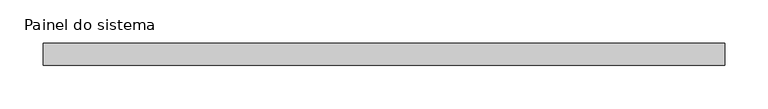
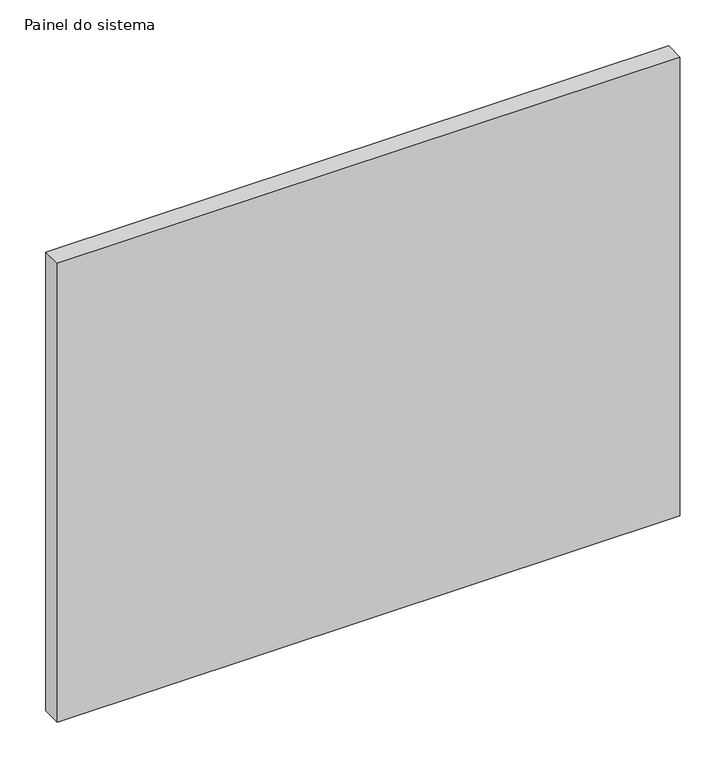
"""IFC4 building model written with IfcOpenShell, lengths in millimetres: plate geometry, Painel do sistema : Envidraçado."""

from ifc_helpers import new_model, si_unit, origin, origin_with_axes, place, context, project, spatial, polyline, outline, extrude, source, transform, mapped, element, save


def painel_do_sistema_9d6ee0b2(model_context):
    return source(origin(), model_context, "Body", "SweptSolid", [
        extrude(outline(polyline([(391.65, 24.5), (-391.65, 24.5), (-391.65, 49.5), (391.65, 49.5), (391.65, 24.5)])), origin_with_axes(), (0.0, 0.0, 1.0), 610.0),
    ])


if __name__ == "__main__":
    model = new_model("IFC4")
    model_context = context("Model", 3, world=origin())
    ifc_project = project(units=[si_unit("LENGTHUNIT", "METRE", prefix="MILLI")], contexts=[model_context])
    site = spatial("IfcSite", under=ifc_project)
    building = spatial("IfcBuilding", under=site)
    placement = place(None, origin())
    painel_do_sistema_shape = painel_do_sistema_9d6ee0b2(model_context)
    element("IfcPlate", 1, ObjectType="Painel do sistema : Envidraçado", at=placement, inside=building, context=model_context, shape_type="MappedRepresentation", body=[
        mapped(painel_do_sistema_shape, transform((0.0, 0.0, 0.0), x_axis=(1.0, 0.0, 0.0), y_axis=(0.0, 1.0, 0.0), z_axis=(0.0, 0.0, 1.0))),
    ])
    save(model, "model.ifc")
